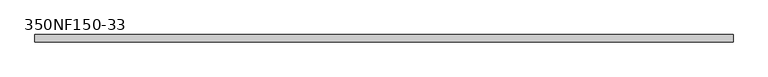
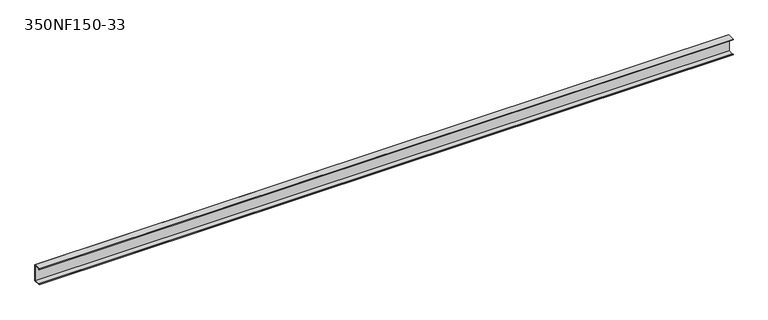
"""IFC4 building model written with IfcOpenShell, lengths in millimetres: beam geometry, BIMSF-SSMA-S : 350NF150-33."""

from ifc_helpers import new_model, si_unit, frame, origin, place, context, project, spatial, polyline, outline, extrude, source, transform, mapped, element, save


def beam_350nf150_33_a90d9724(model_context):
    return source(origin(), model_context, "Body", "SweptSolid", [
        extrude(outline(polyline([(19.05, 44.45), (19.05, -44.45), (-19.05, -44.45), (-19.05, -39.6748), (-18.1676842, -39.6748), (-18.1676842, -43.5676842), (18.1676842, -43.5676842), (18.1676842, 43.5676842), (-18.1676842, 43.5676842), (-18.1676842, 39.6748), (-19.05, 39.6748), (-19.05, 44.45), (19.05, 44.45)])), frame((-1839.9602634, 0.0, 0.0), z_axis=(1.0, 0.0, 0.0), x_axis=(0.0, 1.0, 0.0)), (0.0, 0.0, 1.0), 3679.9205268),
    ])


if __name__ == "__main__":
    model = new_model("IFC4")
    model_context = context("Model", 3, world=origin())
    ifc_project = project(units=[si_unit("LENGTHUNIT", "METRE", prefix="MILLI")], contexts=[model_context])
    site = spatial("IfcSite", under=ifc_project)
    building = spatial("IfcBuilding", under=site)
    placement = place(None, origin())
    beam_350nf150_33_shape = beam_350nf150_33_a90d9724(model_context)
    element("IfcBeam", 1, ObjectType="BIMSF-SSMA-S : 350NF150-33", at=placement, inside=building, context=model_context, shape_type="MappedRepresentation", body=[
        mapped(beam_350nf150_33_shape, transform((0.0, 0.0, 0.0), x_axis=(1.0, 0.0, 0.0), y_axis=(0.0, 1.0, 0.0), z_axis=(0.0, 0.0, 1.0))),
    ])
    save(model, "model.ifc")
